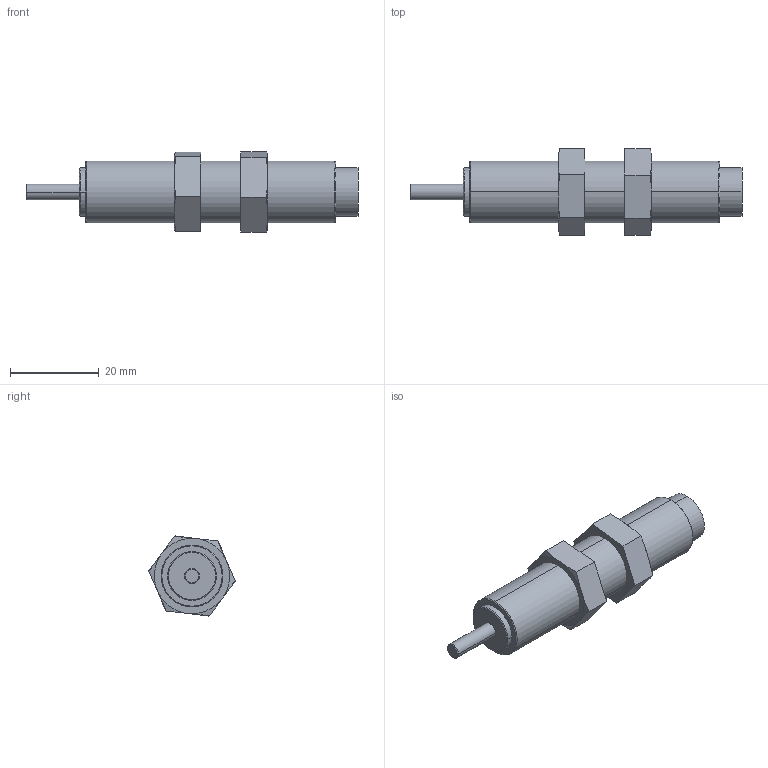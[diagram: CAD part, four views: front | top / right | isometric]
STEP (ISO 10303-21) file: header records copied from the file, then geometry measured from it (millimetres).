
FILE_DESCRIPTION (( 'STEP AP203' ), '1' );
FILE_NAME ('FSA-1412AC.STEP', '2016-03-17T07:44:59', ( 'Sam Lin' ), ( '' ), 'SwSTEP 2.0', 'SolidWorks 2013', '' );
FILE_SCHEMA (( 'CONFIG_CONTROL_DESIGN' ));
Length unit declared in the file: metre
Products named in the file (3): FSA-1412AC_1; M14x1.5-6mm_1; FSA-1412AC
Assembly tree (3 placements, depth 2):
  FSA-1412AC
    FSA-1412AC_1
    M14x1.5-6mm_1  x2
Bounding box: 75 x 19.52 x 18.08 mm (x, y, z)
Volume: 10956 mm3; surface area: 4813.4 mm2
Topology: 3 solids, 3 shells, 53 faces, 116 edges, 72 vertices
Faces by surface type: plane 21, cylinder 12, bspline 12, cone 8
Entity records: 1449 total; most frequent: CARTESIAN_POINT 341, DIRECTION 168, ORIENTED_EDGE 160, EDGE_CURVE 80, AXIS2_PLACEMENT_3D 69, VERTEX_POINT 50, EDGE_LOOP 42, FACE_OUTER_BOUND 37
